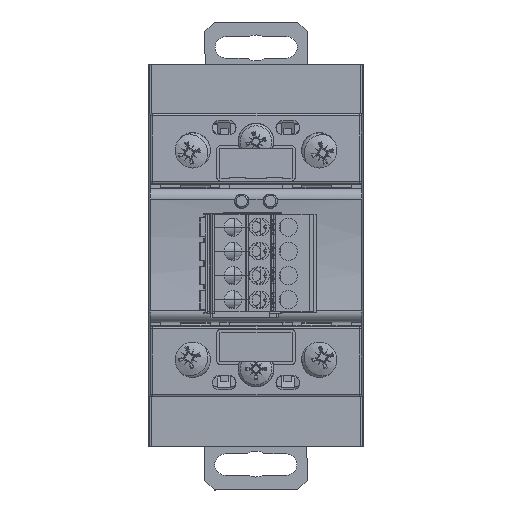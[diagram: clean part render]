
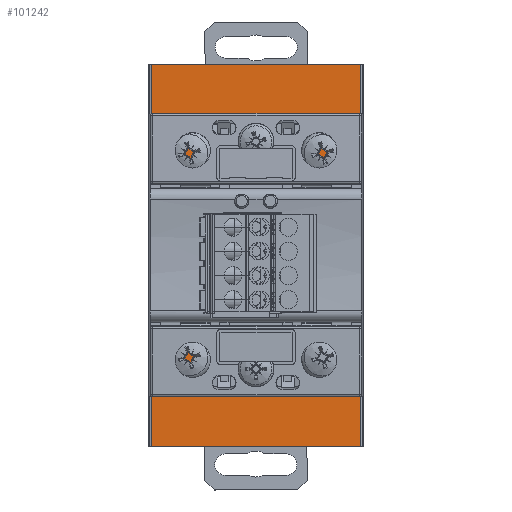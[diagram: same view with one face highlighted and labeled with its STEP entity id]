
A CAD part, top view. The second image highlights one B-rep face of the part: STEP entity #101242.
In plain terms, the highlighted planar face has unit normal (0, 0, 1).
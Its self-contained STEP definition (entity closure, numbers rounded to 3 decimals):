
#93790=CARTESIAN_POINT('',(1.621,-23.8,66.));
#93791=VERTEX_POINT('',#93790);
#93792=CARTESIAN_POINT('',(0.,-23.8,66.));
#93793=DIRECTION('',(0.,0.,-1.0));
#93794=DIRECTION('',(1.0,0.,0.));
#93795=AXIS2_PLACEMENT_3D('',#93792,#93793,#93794);
#93796=CIRCLE('',#93795,1.621);
#93797=EDGE_CURVE('',#93791,#93791,#93796,.T.);
#93869=CARTESIAN_POINT('',(1.621,23.8,66.));
#93870=VERTEX_POINT('',#93869);
#93871=CARTESIAN_POINT('',(0.,23.8,66.));
#93872=DIRECTION('',(0.,0.,-1.0));
#93873=DIRECTION('',(1.0,0.,0.));
#93874=AXIS2_PLACEMENT_3D('',#93871,#93872,#93873);
#93875=CIRCLE('',#93874,1.621);
#93876=EDGE_CURVE('',#93870,#93870,#93875,.T.);
#96296=CARTESIAN_POINT('',(21.95,40.,66.));
#96297=VERTEX_POINT('',#96296);
#96305=CARTESIAN_POINT('',(21.95,-40.,66.));
#96306=VERTEX_POINT('',#96305);
#96307=CARTESIAN_POINT('',(21.95,40.,66.));
#96308=DIRECTION('',(0.0,-1.0,0.0));
#96309=VECTOR('',#96308,80.);
#96310=LINE('',#96307,#96309);
#96311=EDGE_CURVE('',#96297,#96306,#96310,.T.);
#101188=CARTESIAN_POINT('',(-21.95,-40.,66.));
#101189=VERTEX_POINT('',#101188);
#101197=CARTESIAN_POINT('',(-21.95,40.,66.));
#101198=VERTEX_POINT('',#101197);
#101199=CARTESIAN_POINT('',(-21.95,40.,66.));
#101200=DIRECTION('',(0.0,-1.0,0.0));
#101201=VECTOR('',#101200,80.);
#101202=LINE('',#101199,#101201);
#101203=EDGE_CURVE('',#101198,#101189,#101202,.T.);
#101215=CARTESIAN_POINT('',(-24.145,-44.,66.));
#101216=DIRECTION('',(0.,0.,1.0));
#101217=DIRECTION('',(1.0,0.,0.));
#101218=AXIS2_PLACEMENT_3D('',#101215,#101216,#101217);
#101219=PLANE('',#101218);
#101220=CARTESIAN_POINT('',(-21.95,-40.,66.));
#101221=DIRECTION('',(1.0,0.,0.));
#101222=VECTOR('',#101221,43.9);
#101223=LINE('',#101220,#101222);
#101224=EDGE_CURVE('',#101189,#96306,#101223,.T.);
#101225=ORIENTED_EDGE('',*,*,#101224,.T.);
#101226=ORIENTED_EDGE('',*,*,#96311,.F.);
#101227=CARTESIAN_POINT('',(-21.95,40.,66.));
#101228=DIRECTION('',(1.0,0.,0.));
#101229=VECTOR('',#101228,43.9);
#101230=LINE('',#101227,#101229);
#101231=EDGE_CURVE('',#101198,#96297,#101230,.T.);
#101232=ORIENTED_EDGE('',*,*,#101231,.F.);
#101233=ORIENTED_EDGE('',*,*,#101203,.T.);
#101234=EDGE_LOOP('',(#101225,#101226,#101232,#101233));
#101235=FACE_OUTER_BOUND('',#101234,.T.);
#101236=ORIENTED_EDGE('',*,*,#93797,.T.);
#101237=EDGE_LOOP('',(#101236));
#101238=FACE_BOUND('',#101237,.T.);
#101239=ORIENTED_EDGE('',*,*,#93876,.T.);
#101240=EDGE_LOOP('',(#101239));
#101241=FACE_BOUND('',#101240,.T.);
#101242=ADVANCED_FACE('',(#101235,#101238,#101241),#101219,.T.);
